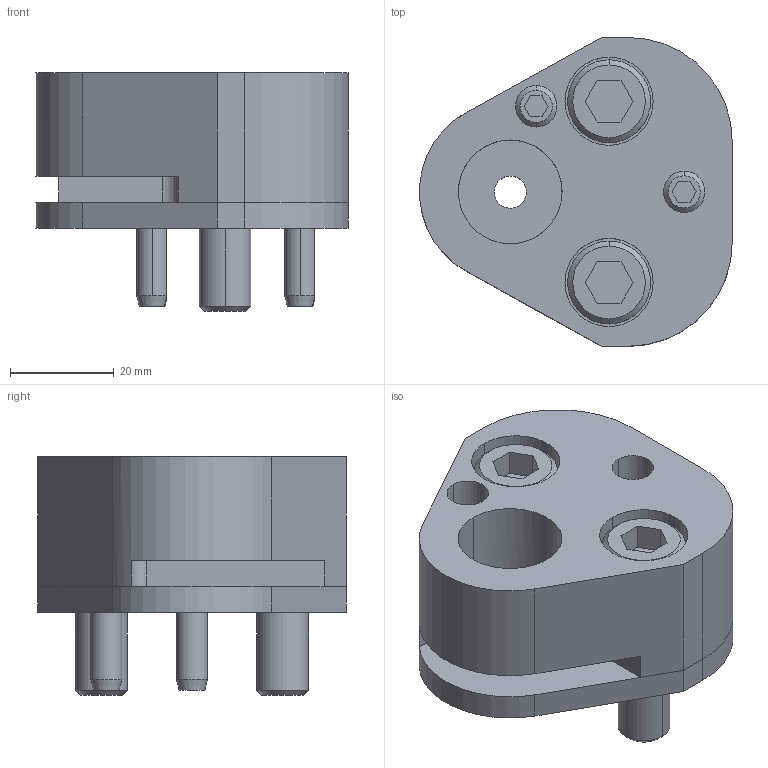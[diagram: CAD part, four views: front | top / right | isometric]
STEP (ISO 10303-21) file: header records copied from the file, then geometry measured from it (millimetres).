
FILE_DESCRIPTION(/* description */ (''),/* implementation_level */ '2;1');
FILE_NAME(/* name */ '3d_25crn-fp20_03148_r00.stp',/* time_stamp */ '2011-01-10T14:17:52+09:00',/* author */ ('MISUMI'),/* organization */ (''),/* preprocessor_version */ 'ST-DEVELOPER v11',/* originating_system */ 'UGS - NX 5.0',/* authorisation */ '');
FILE_SCHEMA (('CONFIG_CONTROL_DESIGN'));
Length unit declared in the file: millimetre
Products named in the file (1): 3d_25crn-fp20_03148_r00
Bounding box: 60.24 x 59.5 x 46 mm (x, y, z)
Volume: 70417.7 mm3; surface area: 26208.8 mm2
Topology: 8 solids, 8 shells, 156 faces, 358 edges, 231 vertices
Faces by surface type: plane 69, cylinder 61, cone 26
Entity records: 4583 total; most frequent: DIRECTION 815, CARTESIAN_POINT 803, ORIENTED_EDGE 716, EDGE_CURVE 358, AXIS2_PLACEMENT_3D 307, VERTEX_POINT 231, LINE 201, VECTOR 201
